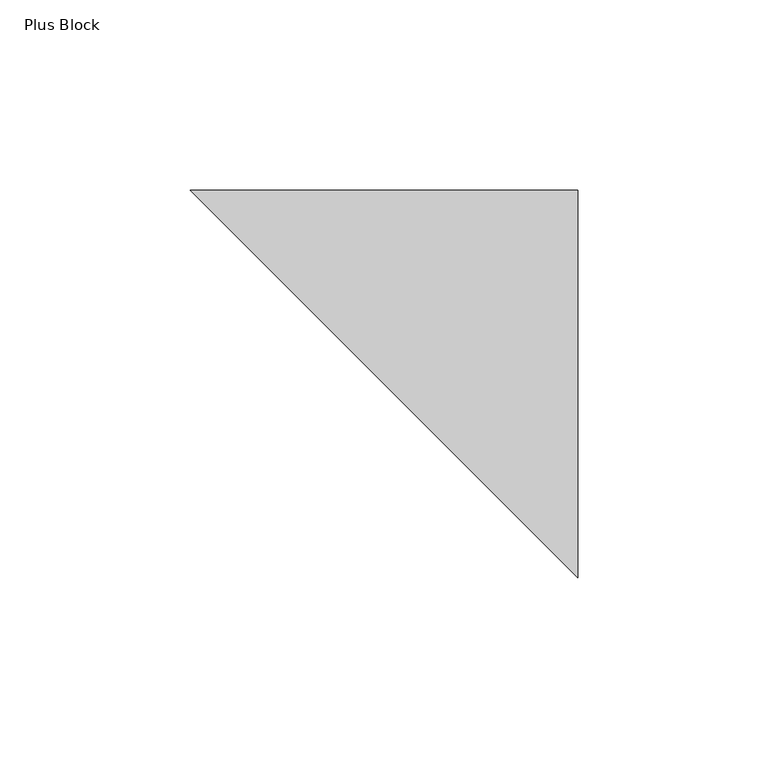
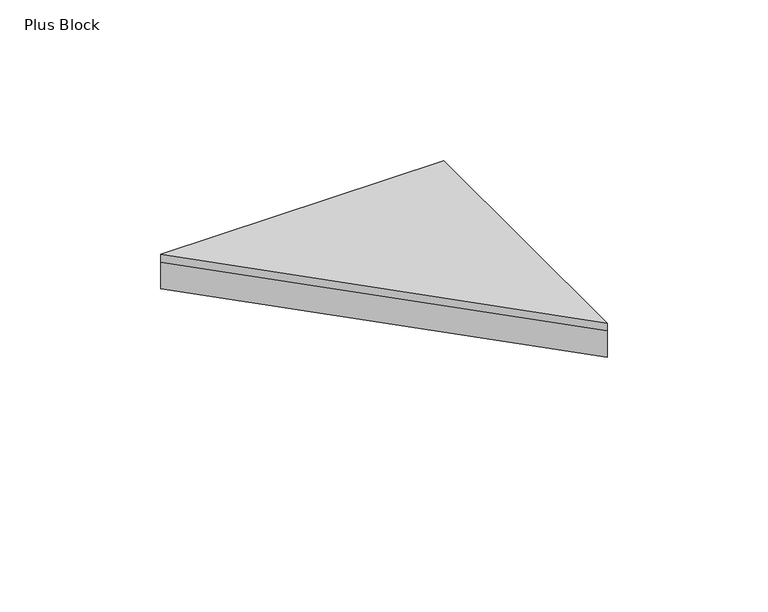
"""IFC4 building model written with IfcOpenShell, lengths in millimetres: proxy geometry, FilzFelt_Plus_Block : Plus Block."""

import ifcopenshell
import ifcopenshell.guid

model = None  # the IFC model being written
_history = None  # IfcOwnerHistory: only IFC2X3 demands one
_inside = {}  # id of a spatial element -> (the spatial element, [elements in it])
_under = {}  # id of a project, library or spatial element -> (it, [spatial elements below it])
_declared = {}  # id of a project -> (the project, [libraries it declares])
_typed = {}  # id of a type object -> (the type object, [elements of that type])
_made_of = {}  # id of a material, layer set ... -> (it, [elements and type objects made of it])


def new_model(schema):
    """Start an empty IFC model of exactly this schema.

    Asked for "IFC4X3", IfcOpenShell would pick the latest addendum, in which some entities
    have other attributes; the version numbers below select the first issue.
    IFC2X3 requires an IfcOwnerHistory on every rooted entity: one is made here for all.
    """
    global model, _history
    if schema == "IFC4X3":
        model = ifcopenshell.file(schema_version=(4, 3, 0, 0))
    else:
        model = ifcopenshell.file(schema=schema)
    _inside.clear()
    _under.clear()
    _declared.clear()
    _typed.clear()
    _made_of.clear()
    _history = None
    if model.schema == "IFC2X3":
        org = make("IfcOrganization", Name="unknown")
        user = make(
            "IfcPersonAndOrganization",
            ThePerson=make("IfcPerson", FamilyName="unknown"),
            TheOrganization=org,
        )
        app = make(
            "IfcApplication",
            ApplicationDeveloper=org,
            Version="unknown",
            ApplicationFullName="unknown",
            ApplicationIdentifier="unknown",
        )
        _history = make(
            "IfcOwnerHistory",
            OwningUser=user,
            OwningApplication=app,
            ChangeAction="ADDED",
            CreationDate=0,
        )
    return model


def make(cls, **values):
    """One entity of the class cls with the attributes given. An attribute that is None is left unset."""
    return model.create_entity(
        cls, **{name: value for name, value in values.items() if value is not None}
    )


def rooted(cls, **values):
    """An entity with a GlobalId (a new one), such as an element, a storey or a relation."""
    return make(cls, GlobalId=ifcopenshell.guid.new(), OwnerHistory=_history, **values)


def si_unit(unit_type, name, prefix=None):
    """IfcSIUnit, for example si_unit("LENGTHUNIT", "METRE", prefix="MILLI")."""
    return make("IfcSIUnit", UnitType=unit_type, Prefix=prefix, Name=name)


def assignment(units):
    """IfcUnitAssignment: the units of a project."""
    return None if units is None else make("IfcUnitAssignment", Units=units)


def point(xyz):
    """IfcCartesianPoint."""
    return None if xyz is None else make("IfcCartesianPoint", Coordinates=xyz)


def direction(xyz):
    """IfcDirection."""
    return None if xyz is None else make("IfcDirection", DirectionRatios=xyz)


def frame(location, z_axis=None, x_axis=None):
    """IfcAxis2Placement3D, a coordinate frame: its origin and axes. An axis left out is left unset."""
    return make(
        "IfcAxis2Placement3D",
        Location=point(location),
        Axis=direction(z_axis),
        RefDirection=direction(x_axis),
    )


def origin():
    """The frame at (0, 0, 0) with its axes left unset."""
    return frame((0.0, 0.0, 0.0))


def origin_with_axes():
    """The frame at (0, 0, 0) with the z axis (0, 0, 1) and the x axis (1, 0, 0) written out."""
    return frame((0.0, 0.0, 0.0), z_axis=(0.0, 0.0, 1.0), x_axis=(1.0, 0.0, 0.0))


def place(relative_to, where):
    """IfcLocalPlacement: puts the frame where relative to a parent placement (None: the world)."""
    return make(
        "IfcLocalPlacement", PlacementRelTo=relative_to, RelativePlacement=where
    )


def context(
    kind, dimensions, precision=None, world=None, true_north=None, identifier=None
):
    """IfcGeometricRepresentationContext, for example the 3D "Model" context."""
    return make(
        "IfcGeometricRepresentationContext",
        ContextIdentifier=identifier,
        ContextType=kind,
        CoordinateSpaceDimension=dimensions,
        Precision=precision,
        WorldCoordinateSystem=world,
        TrueNorth=true_north,
    )


def project(units=None, contexts=None):
    """IfcProject with its units and contexts."""
    return rooted(
        "IfcProject",
        Name="project",
        RepresentationContexts=contexts,
        UnitsInContext=assignment(units),
    )


def spatial(cls, under=None, at=None, **own):
    """A site, building, storey or space (cls), placed at a placement, below another one or the project."""
    s = rooted(cls, ObjectPlacement=at, **own)
    if under is not None:
        _under.setdefault(under.id(), (under, []))[1].append(s)
    return s


def polyline(points):
    """IfcPolyline through the points."""
    return make("IfcPolyline", Points=[point(p) for p in points])


def outline(outer, holes=None, kind="AREA"):
    """IfcArbitraryClosedProfileDef: a profile drawn as a closed curve; with holes, ...WithVoids."""
    if holes is None:
        return make("IfcArbitraryClosedProfileDef", ProfileType=kind, OuterCurve=outer)
    return make(
        "IfcArbitraryProfileDefWithVoids",
        ProfileType=kind,
        OuterCurve=outer,
        InnerCurves=holes,
    )


def extrude(swept, where, along, depth):
    """IfcExtrudedAreaSolid: the profile swept, set in the frame where, extruded along a direction by depth."""
    return make(
        "IfcExtrudedAreaSolid",
        SweptArea=swept,
        Position=where,
        ExtrudedDirection=direction(along),
        Depth=depth,
    )


def shape(context_of_items, identifier, shape_type, items):
    """IfcShapeRepresentation: the items that make up one representation, for example the "Body"."""
    return make(
        "IfcShapeRepresentation",
        ContextOfItems=context_of_items,
        RepresentationIdentifier=identifier,
        RepresentationType=shape_type,
        Items=items,
    )


def source(mapping_origin, context_of_items, identifier, shape_type, items):
    """IfcRepresentationMap: a shape defined once, which mapped items show again and again."""
    return make(
        "IfcRepresentationMap",
        MappingOrigin=mapping_origin,
        MappedRepresentation=shape(context_of_items, identifier, shape_type, items),
    )


def transform(
    local_origin,
    x_axis=None,
    y_axis=None,
    z_axis=None,
    scale=None,
    scale2=None,
    scale3=None,
    uniform=True,
):
    """IfcCartesianTransformationOperator3D, or its non-uniform kind. x_axis, y_axis, z_axis: its Axis1, 2, 3."""
    if uniform:
        return make(
            "IfcCartesianTransformationOperator3D",
            Axis1=direction(x_axis),
            Axis2=direction(y_axis),
            LocalOrigin=point(local_origin),
            Scale=scale,
            Axis3=direction(z_axis),
        )
    return make(
        "IfcCartesianTransformationOperator3DnonUniform",
        Axis1=direction(x_axis),
        Axis2=direction(y_axis),
        LocalOrigin=point(local_origin),
        Scale=scale,
        Axis3=direction(z_axis),
        Scale2=scale2,
        Scale3=scale3,
    )


def mapped(mapping_source, mapping_target):
    """IfcMappedItem: shows the shape of a source again, moved by a transform."""
    return make(
        "IfcMappedItem", MappingSource=mapping_source, MappingTarget=mapping_target
    )


def made_of(thing, what):
    """Note that an element or type object is made of a material, layer set ...; save() writes the relation."""
    if what is not None:
        _made_of.setdefault(what.id(), (what, []))[1].append(thing)
    return thing


def element(
    cls,
    number,
    at=None,
    inside=None,
    cuts=None,
    type_object=None,
    material=None,
    context=None,
    identifier="Body",
    shape_type=None,
    held_by="IfcProductDefinitionShape",
    body=None,
    shapes=None,
    **own,
):
    """One element of the class cls, such as IfcWall. Its Tag is "e" and its number.

    at: its placement. inside: the storey or other place that contains it. cuts: it is an
    opening in that element (IfcRelVoidsElement). A single representation is given by context,
    identifier, shape_type and body (its items); several are given by shapes. held_by: the class
    of the entity that holds the representations. save() writes the other relations.
    """
    e = rooted(cls, Tag="e%d" % number, ObjectPlacement=at, **own)
    if body is not None:
        shapes = [shape(context, identifier, shape_type, body)]
    if shapes is not None:
        e.Representation = make(held_by, Representations=shapes)
    if inside is not None:
        _inside.setdefault(inside.id(), (inside, []))[1].append(e)
    if cuts is not None:
        rooted(
            "IfcRelVoidsElement", RelatingBuildingElement=cuts, RelatedOpeningElement=e
        )
    if type_object is not None:
        _typed.setdefault(type_object.id(), (type_object, []))[1].append(e)
    return made_of(e, material)


def aggregate(whole, parts):
    """IfcRelAggregates: a whole, such as a stair, and the parts it consists of."""
    return rooted("IfcRelAggregates", RelatingObject=whole, RelatedObjects=parts)


def save(model, path):
    """Write the relations noted so far, then the file.

    IfcRelAggregates (storeys below a building ...), IfcRelContainedInSpatialStructure (elements
    in a storey), IfcRelDefinesByType, IfcRelAssociatesMaterial and IfcRelDeclares: one each for
    every whole, place, type object, material and project.
    """
    for whole, parts in _under.values():
        aggregate(whole, parts)
    for where, things in _inside.values():
        rooted(
            "IfcRelContainedInSpatialStructure",
            RelatedElements=things,
            RelatingStructure=where,
        )
    for kind, things in _typed.values():
        rooted("IfcRelDefinesByType", RelatedObjects=things, RelatingType=kind)
    for what, things in _made_of.values():
        rooted("IfcRelAssociatesMaterial", RelatedObjects=things, RelatingMaterial=what)
    for by, libraries in _declared.values():
        rooted("IfcRelDeclares", RelatingContext=by, RelatedDefinitions=libraries)
    model.write(path)


def plus_block_724b5338(model_context):
    return source(origin(), model_context, "Body", "SweptSolid", [
        extrude(outline(polyline([(50.8333333, 50.8333333), (152.5, 50.8333333), (152.5, -50.8333333), (50.8333333, 50.8333333)])), frame((0.0, 0.0, 10.0210937), z_axis=(0.0, 0.0, 1.0), x_axis=(1.0, 0.0, 0.0)), (0.0, 0.0, 1.0), 2.9765625),
        extrude(outline(polyline([(50.8333333, 50.8333333), (152.5, 50.8333333), (152.5, -50.8333333), (50.8333333, 50.8333333)])), origin_with_axes(), (0.0, 0.0, 1.0), 10.0210938),
    ])


if __name__ == "__main__":
    model = new_model("IFC4")
    model_context = context("Model", 3, world=origin())
    ifc_project = project(units=[si_unit("LENGTHUNIT", "METRE", prefix="MILLI")], contexts=[model_context])
    site = spatial("IfcSite", under=ifc_project)
    building = spatial("IfcBuilding", under=site)
    placement = place(None, origin())
    plus_block_shape = plus_block_724b5338(model_context)
    element("IfcBuildingElementProxy", 1, Name="FilzFelt_Plus_Block : Plus Block", ObjectType="FilzFelt_Plus_Block : Plus Block", at=placement, inside=building, context=model_context, shape_type="MappedRepresentation", body=[
        mapped(plus_block_shape, transform((0.0, 0.0, 0.0), x_axis=(1.0, 0.0, 0.0), y_axis=(0.0, 1.0, 0.0), z_axis=(0.0, 0.0, 1.0))),
    ])
    save(model, "model.ifc")
